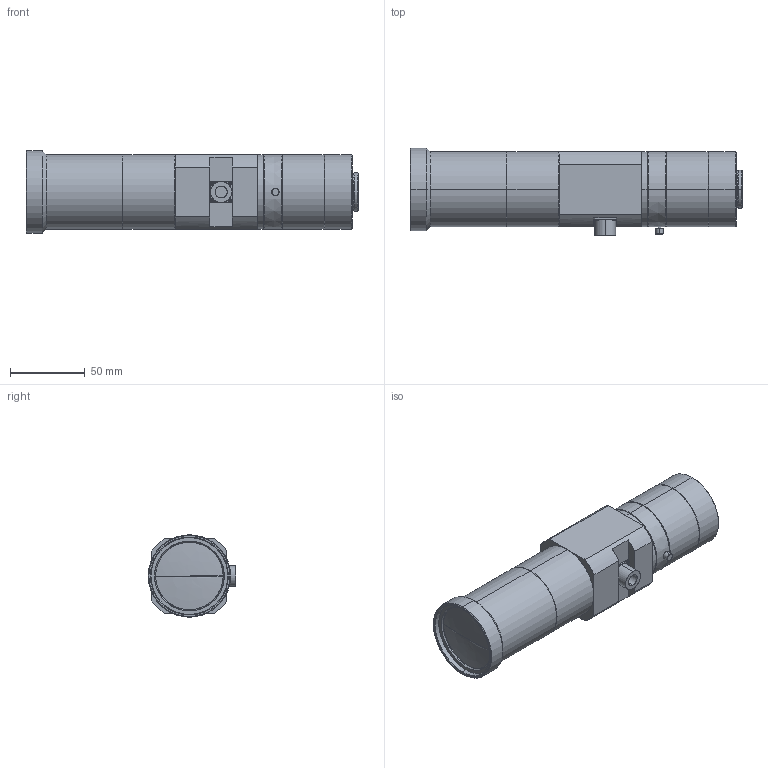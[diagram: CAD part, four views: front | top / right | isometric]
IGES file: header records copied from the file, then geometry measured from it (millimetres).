
Start section: SolidWorks IGES file using analytic representation for surfaces
Global section: file name: 4HC:\Users\TAKEZAWA_VST\Desktop\石原さん案件\VS-TCTV08-110CO_S_外観Model.IGS; native system: SolidWorks 2024; preprocessor: SolidWorks 2024; author: TAKEZAWA_VST; date: 250714.112556; units: millimetre
Bounding box: 221.47 x 58.5 x 55 mm (x, y, z)
Surface area: 50283.8 mm2 (no closed solid volume)
Topology: 0 solids, 0 shells, 210 faces, 2816 edges, 2815 vertices
Faces by surface type: revolution 110, bspline 100
